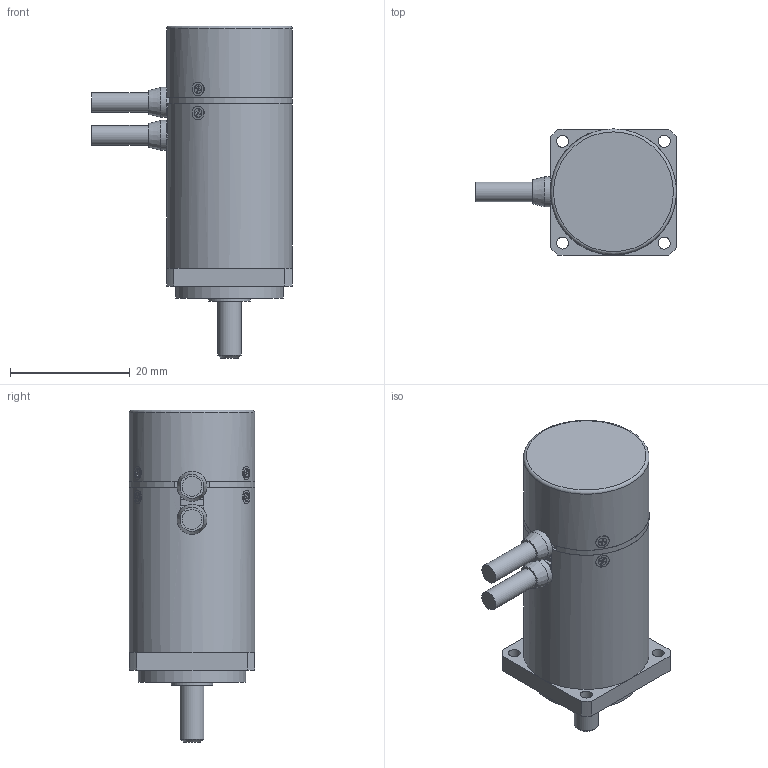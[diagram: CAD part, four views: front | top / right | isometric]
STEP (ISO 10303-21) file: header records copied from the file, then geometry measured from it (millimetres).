
FILE_DESCRIPTION(('STEP AP214'),'1');
FILE_NAME('MDS-2018.stp','2017-10-10T07:03:02',(' '),(' '),'Spatial InterOp 3D',' ',' ');
FILE_SCHEMA(('automotive_design'));
Length unit declared in the file: millimetre
Products named in the file (11): ケーブル; タッピングネジ M1.4x2.2; サラコネジ M1.4x2.5; ｱﾝｷﾞｭﾗﾍﾞｱﾘﾝｸﾞ MTA04-11; ｱﾝｷﾞｭﾗﾍﾞｱﾘﾝｸﾞ MTA05-13; ブッシュ; カバー_S; ベース; シャフト_S2018; ケース_2018
Assembly tree (16 placements, depth 2):
  (unnamed)
    ケーブル  x2
    タッピングネジ M1.4x2.2  x3
    サラコネジ M1.4x2.5  x3
    ｱﾝｷﾞｭﾗﾍﾞｱﾘﾝｸﾞ MTA04-11
    ｱﾝｷﾞｭﾗﾍﾞｱﾘﾝｸﾞ MTA05-13
    ブッシュ  x2
    カバー_S
    ベース
    シャフト_S2018
    ケース_2018
Bounding box: 33.5 x 21 x 55.4 mm (x, y, z)
Volume: 5986.4 mm3; surface area: 11754.3 mm2
Topology: 17 solids, 18 shells, 349 faces, 806 edges, 521 vertices
Faces by surface type: plane 200, cylinder 110, cone 29, torus 10
Full cylindrical faces by diameter (mm): 0.75 x6, 1.1 x6, 1.4 x12, 1.5 x6, 2 x4, 2.3 x6, 3.3 x4, 3.4 x1, 4 x4, 4.2 x1, 5 x4, 6.2 x4, 7 x1, 7.2 x3, 7.3 x1, 7.6 x1, 8.1 x1, 8.6 x1, 9.5 x5, 9.9 x1, 11 x2, 11.2 x1, 11.3 x3, 11.5 x1, 13 x2, 16 x1, 18 x1, 18.5 x1, 19.4 x1, 19.5 x1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
Entity records: 9152 total; most frequent: CARTESIAN_POINT 1689, DIRECTION 1124, ORIENTED_EDGE 872, AXIS2_PLACEMENT_3D 458, EDGE_CURVE 436, EDGE_LOOP 416, VERTEX_POINT 341, FACE_OUTER_BOUND 334
